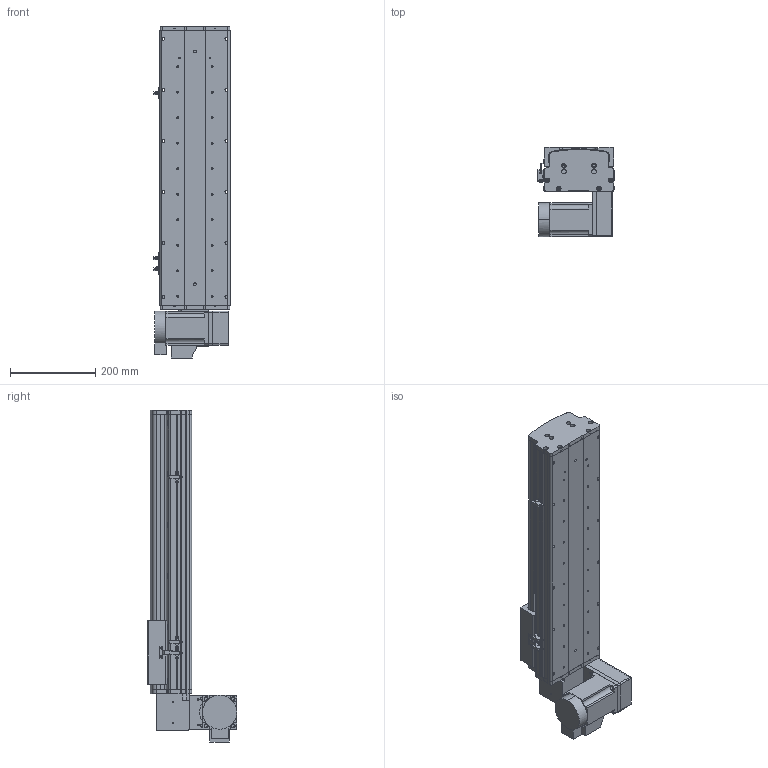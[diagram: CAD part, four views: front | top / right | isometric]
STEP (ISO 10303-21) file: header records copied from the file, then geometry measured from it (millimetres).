
FILE_DESCRIPTION (( 'STEP AP214' ), '1' );
FILE_NAME ('KSD165B-S400-MRD-CM .STEP', '2017-10-16T09:19:19', ( '微软用户' ), ( '微软中国' ), 'SwSTEP 2.0', 'SolidWorks 2014', '' );
FILE_SCHEMA (( 'AUTOMOTIVE_DESIGN' ));
Length unit declared in the file: millimetre
Products named in the file (17): KSD165模组同步带-防撞垫1; KSD165耀郪-ヶ傷啣1-肮祭湍; KSD165模组-后端板1-同步带; KSD165模组-同步带滑动座-最新版; KSD165B-S400-MRD-CM ; 130宽模组马达安装板连板上下折丝杆同步带; 130宽模组保护罩上下左右折-同步带; HTPA26S5M250-A-H8 750W萇儂蚚; HTPA26S5M250-A-H8 400W萇儂蚚 ; KSD165模组-同步带防尘盖1-400行程-最新版; KSD165模组同步带底板-400行程-最新; 拸秶雄ん750W侜督萇儂; 165宽马达安装板同步带右; U倰嫖萇假蚾璃; U倰嫖萇EEㄜSX672; 覜茼え68遵圉猾敕; KSD165模组-同步带-防撞垫2
Assembly tree (20 placements, depth 2):
  KSD165B-S400-MRD-CM 
    KSD165模组-同步带滑动座-最新版
    KSD165模组-后端板1-同步带
    KSD165耀郪-ヶ傷啣1-肮祭湍
    KSD165模组同步带-防撞垫1
    KSD165模组-同步带-防撞垫2
    覜茼え68遵圉猾敕
    U倰嫖萇EEㄜSX672  x3
    U倰嫖萇假蚾璃  x3
    165宽马达安装板同步带右
    拸秶雄ん750W侜督萇儂
    KSD165模组同步带底板-400行程-最新
    KSD165模组-同步带防尘盖1-400行程-最新版
    HTPA26S5M250-A-H8 400W萇儂蚚 
    HTPA26S5M250-A-H8 750W萇儂蚚
    130宽模组保护罩上下左右折-同步带
    130宽模组马达安装板连板上下折丝杆同步带
Bounding box: 178.7 x 210 x 780.5 mm (x, y, z)
Volume: 5208851.7 mm3; surface area: 1203214.4 mm2
Topology: 21 solids, 21 shells, 1885 faces, 5310 edges, 3464 vertices
Faces by surface type: cylinder 1195, plane 578, cone 112
Entity records: 60492 total; most frequent: CARTESIAN_POINT 12400, DIRECTION 10002, ORIENTED_EDGE 9280, EDGE_CURVE 4640, AXIS2_PLACEMENT_3D 3912, VERTEX_POINT 3056, CIRCLE 2224, VECTOR 2178
